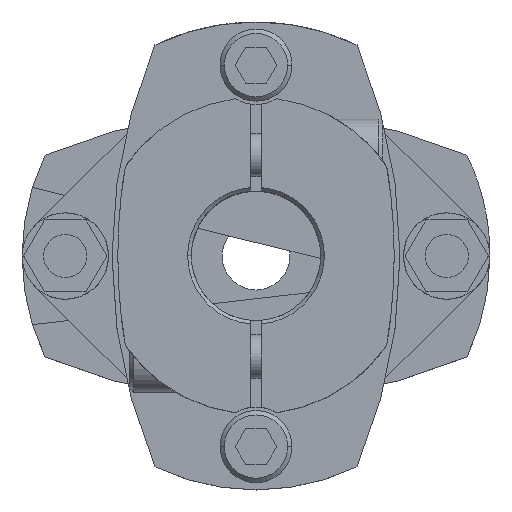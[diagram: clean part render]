
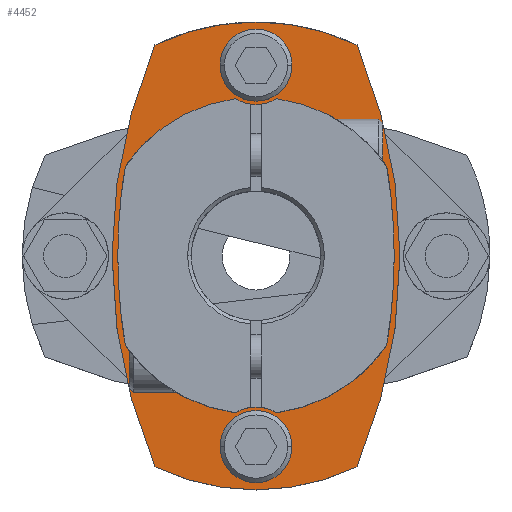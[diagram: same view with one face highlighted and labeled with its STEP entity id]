
A CAD part, top view. The second image highlights one B-rep face of the part: STEP entity #4452.
In plain terms, the highlighted planar face has unit normal (0, 0, 1).
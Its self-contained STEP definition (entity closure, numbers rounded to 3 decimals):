
#1172=CARTESIAN_POINT('',(-20.,0.,9.75));
#1173=VERTEX_POINT('',#1172);
#1189=CARTESIAN_POINT('',(-14.034,-29.314,9.75));
#1190=VERTEX_POINT('',#1189);
#1197=CARTESIAN_POINT('',(55.,0.,9.75));
#1198=DIRECTION('',(0.0,0.0,-1.0));
#1199=DIRECTION('',(-1.0,0.0,0.0));
#1200=AXIS2_PLACEMENT_3D('',#1197,#1198,#1199);
#1201=CIRCLE('',#1200,75.);
#1202=EDGE_CURVE('',#1190,#1173,#1201,.T.);
#1212=CARTESIAN_POINT('',(20.,0.,9.75));
#1213=VERTEX_POINT('',#1212);
#1222=CARTESIAN_POINT('',(14.034,-29.314,9.75));
#1223=VERTEX_POINT('',#1222);
#1224=CARTESIAN_POINT('',(-55.,0.,9.75));
#1225=DIRECTION('',(0.0,0.0,-1.0));
#1226=DIRECTION('',(-1.0,0.0,0.0));
#1227=AXIS2_PLACEMENT_3D('',#1224,#1225,#1226);
#1228=CIRCLE('',#1227,75.);
#1229=EDGE_CURVE('',#1213,#1223,#1228,.T.);
#1480=CARTESIAN_POINT('',(-5.,-26.5,9.75));
#1481=VERTEX_POINT('',#1480);
#1490=CARTESIAN_POINT('',(5.,-26.5,9.75));
#1491=VERTEX_POINT('',#1490);
#1492=CARTESIAN_POINT('',(0.,-26.5,9.75));
#1493=DIRECTION('',(0.0,0.0,-1.0));
#1494=DIRECTION('',(-1.0,0.0,0.0));
#1495=AXIS2_PLACEMENT_3D('',#1492,#1493,#1494);
#1496=CIRCLE('',#1495,5.0);
#1497=EDGE_CURVE('',#1491,#1481,#1496,.T.);
#1554=CARTESIAN_POINT('',(-5.,26.5,9.75));
#1555=VERTEX_POINT('',#1554);
#1564=CARTESIAN_POINT('',(5.,26.5,9.75));
#1565=VERTEX_POINT('',#1564);
#1566=CARTESIAN_POINT('',(0.,26.5,9.75));
#1567=DIRECTION('',(0.0,0.0,-1.0));
#1568=DIRECTION('',(-1.0,0.0,0.0));
#1569=AXIS2_PLACEMENT_3D('',#1566,#1567,#1568);
#1570=CIRCLE('',#1569,5.0);
#1571=EDGE_CURVE('',#1565,#1555,#1570,.T.);
#1628=CARTESIAN_POINT('',(-19.2,0.,9.75));
#1629=VERTEX_POINT('',#1628);
#1638=CARTESIAN_POINT('',(-18.151,-12.431,9.75));
#1639=VERTEX_POINT('',#1638);
#1640=CARTESIAN_POINT('',(55.,0.,9.75));
#1641=DIRECTION('',(0.0,0.0,-1.0));
#1642=DIRECTION('',(-1.0,0.0,0.0));
#1643=AXIS2_PLACEMENT_3D('',#1640,#1641,#1642);
#1644=CIRCLE('',#1643,74.2);
#1645=EDGE_CURVE('',#1639,#1629,#1644,.T.);
#1768=CARTESIAN_POINT('',(19.2,0.,9.75));
#1769=VERTEX_POINT('',#1768);
#1861=CARTESIAN_POINT('',(18.151,-12.431,9.75));
#1862=VERTEX_POINT('',#1861);
#1869=CARTESIAN_POINT('',(-55.,0.,9.75));
#1870=DIRECTION('',(0.0,0.0,-1.0));
#1871=DIRECTION('',(-1.0,0.0,0.0));
#1872=AXIS2_PLACEMENT_3D('',#1869,#1870,#1871);
#1873=CIRCLE('',#1872,74.2);
#1874=EDGE_CURVE('',#1769,#1862,#1873,.T.);
#3401=CARTESIAN_POINT('',(18.151,12.431,9.75));
#3402=VERTEX_POINT('',#3401);
#3403=CARTESIAN_POINT('',(-55.,0.,9.75));
#3404=DIRECTION('',(0.0,0.0,-1.0));
#3405=DIRECTION('',(-1.0,0.0,0.0));
#3406=AXIS2_PLACEMENT_3D('',#3403,#3404,#3405);
#3407=CIRCLE('',#3406,74.2);
#3408=EDGE_CURVE('',#3402,#1769,#3407,.T.);
#3513=CARTESIAN_POINT('',(-18.151,12.431,9.75));
#3514=VERTEX_POINT('',#3513);
#3521=CARTESIAN_POINT('',(55.,0.,9.75));
#3522=DIRECTION('',(0.0,0.0,-1.0));
#3523=DIRECTION('',(-1.0,0.0,0.0));
#3524=AXIS2_PLACEMENT_3D('',#3521,#3522,#3523);
#3525=CIRCLE('',#3524,74.2);
#3526=EDGE_CURVE('',#1629,#3514,#3525,.T.);
#3563=CARTESIAN_POINT('',(0.,26.5,9.75));
#3564=DIRECTION('',(0.0,0.0,-1.0));
#3565=DIRECTION('',(-1.0,0.0,0.0));
#3566=AXIS2_PLACEMENT_3D('',#3563,#3564,#3565);
#3567=CIRCLE('',#3566,5.0);
#3568=EDGE_CURVE('',#1555,#1565,#3567,.T.);
#3665=CARTESIAN_POINT('',(0.,-26.5,9.75));
#3666=DIRECTION('',(0.0,0.0,-1.0));
#3667=DIRECTION('',(-1.0,0.0,0.0));
#3668=AXIS2_PLACEMENT_3D('',#3665,#3666,#3667);
#3669=CIRCLE('',#3668,5.0);
#3670=EDGE_CURVE('',#1481,#1491,#3669,.T.);
#4133=CARTESIAN_POINT('',(2.875,-21.811,9.75));
#4134=VERTEX_POINT('',#4133);
#4150=CARTESIAN_POINT('',(-2.875,-21.811,9.75));
#4151=VERTEX_POINT('',#4150);
#4158=CARTESIAN_POINT('',(0.,-26.5,9.75));
#4159=DIRECTION('',(0.0,0.0,1.0));
#4160=DIRECTION('',(-1.0,0.0,0.0));
#4161=AXIS2_PLACEMENT_3D('',#4158,#4159,#4160);
#4162=CIRCLE('',#4161,5.5);
#4163=EDGE_CURVE('',#4134,#4151,#4162,.T.);
#4250=CARTESIAN_POINT('',(-2.875,21.811,9.75));
#4251=VERTEX_POINT('',#4250);
#4267=CARTESIAN_POINT('',(2.875,21.811,9.75));
#4268=VERTEX_POINT('',#4267);
#4275=CARTESIAN_POINT('',(0.,26.5,9.75));
#4276=DIRECTION('',(0.0,0.0,1.0));
#4277=DIRECTION('',(-1.0,0.0,0.0));
#4278=AXIS2_PLACEMENT_3D('',#4275,#4276,#4277);
#4279=CIRCLE('',#4278,5.5);
#4280=EDGE_CURVE('',#4251,#4268,#4279,.T.);
#4299=CARTESIAN_POINT('',(0.,0.,9.75));
#4300=DIRECTION('',(0.0,0.0,-1.0));
#4301=DIRECTION('',(-1.0,0.0,0.0));
#4302=AXIS2_PLACEMENT_3D('',#4299,#4300,#4301);
#4303=CIRCLE('',#4302,22.);
#4304=EDGE_CURVE('',#4151,#1639,#4303,.T.);
#4373=CARTESIAN_POINT('',(0.,0.,9.75));
#4374=DIRECTION('',(0.0,0.0,1.0));
#4375=DIRECTION('',(-1.0,0.0,0.0));
#4376=AXIS2_PLACEMENT_3D('',#4373,#4374,#4375);
#4377=PLANE('',#4376);
#4378=CARTESIAN_POINT('',(14.034,29.314,9.75));
#4379=VERTEX_POINT('',#4378);
#4380=CARTESIAN_POINT('',(-55.,0.,9.75));
#4381=DIRECTION('',(0.0,0.0,-1.0));
#4382=DIRECTION('',(-1.0,0.0,0.0));
#4383=AXIS2_PLACEMENT_3D('',#4380,#4381,#4382);
#4384=CIRCLE('',#4383,75.);
#4385=EDGE_CURVE('',#4379,#1213,#4384,.T.);
#4386=ORIENTED_EDGE('',*,*,#4385,.F.);
#4387=CARTESIAN_POINT('',(-14.034,29.314,9.75));
#4388=VERTEX_POINT('',#4387);
#4389=CARTESIAN_POINT('',(0.0,0.,9.75));
#4390=DIRECTION('',(0.0,0.0,-1.0));
#4391=DIRECTION('',(-1.0,0.0,0.0));
#4392=AXIS2_PLACEMENT_3D('',#4389,#4390,#4391);
#4393=CIRCLE('',#4392,32.5);
#4394=EDGE_CURVE('',#4388,#4379,#4393,.T.);
#4395=ORIENTED_EDGE('',*,*,#4394,.F.);
#4396=CARTESIAN_POINT('',(55.,0.,9.75));
#4397=DIRECTION('',(0.0,0.0,-1.0));
#4398=DIRECTION('',(-1.0,0.0,0.0));
#4399=AXIS2_PLACEMENT_3D('',#4396,#4397,#4398);
#4400=CIRCLE('',#4399,75.);
#4401=EDGE_CURVE('',#1173,#4388,#4400,.T.);
#4402=ORIENTED_EDGE('',*,*,#4401,.F.);
#4403=ORIENTED_EDGE('',*,*,#1202,.F.);
#4404=CARTESIAN_POINT('',(0.0,0.,9.75));
#4405=DIRECTION('',(0.0,0.0,-1.0));
#4406=DIRECTION('',(-1.0,0.0,0.0));
#4407=AXIS2_PLACEMENT_3D('',#4404,#4405,#4406);
#4408=CIRCLE('',#4407,32.5);
#4409=EDGE_CURVE('',#1223,#1190,#4408,.T.);
#4410=ORIENTED_EDGE('',*,*,#4409,.F.);
#4411=ORIENTED_EDGE('',*,*,#1229,.F.);
#4412=EDGE_LOOP('',(#4386,#4395,#4402,#4403,#4410,#4411));
#4413=FACE_OUTER_BOUND('',#4412,.T.);
#4414=ORIENTED_EDGE('',*,*,#3670,.T.);
#4415=ORIENTED_EDGE('',*,*,#1497,.T.);
#4416=EDGE_LOOP('',(#4414,#4415));
#4417=FACE_BOUND('',#4416,.T.);
#4418=ORIENTED_EDGE('',*,*,#3568,.T.);
#4419=ORIENTED_EDGE('',*,*,#1571,.T.);
#4420=EDGE_LOOP('',(#4418,#4419));
#4421=FACE_BOUND('',#4420,.T.);
#4422=ORIENTED_EDGE('',*,*,#4304,.T.);
#4423=ORIENTED_EDGE('',*,*,#1645,.T.);
#4424=ORIENTED_EDGE('',*,*,#3526,.T.);
#4425=CARTESIAN_POINT('',(0.,0.,9.75));
#4426=DIRECTION('',(0.0,0.0,-1.0));
#4427=DIRECTION('',(-1.0,0.0,0.0));
#4428=AXIS2_PLACEMENT_3D('',#4425,#4426,#4427);
#4429=CIRCLE('',#4428,22.);
#4430=EDGE_CURVE('',#3514,#4251,#4429,.T.);
#4431=ORIENTED_EDGE('',*,*,#4430,.T.);
#4432=ORIENTED_EDGE('',*,*,#4280,.T.);
#4433=CARTESIAN_POINT('',(0.,0.,9.75));
#4434=DIRECTION('',(0.0,0.0,-1.0));
#4435=DIRECTION('',(-1.0,0.0,0.0));
#4436=AXIS2_PLACEMENT_3D('',#4433,#4434,#4435);
#4437=CIRCLE('',#4436,22.);
#4438=EDGE_CURVE('',#4268,#3402,#4437,.T.);
#4439=ORIENTED_EDGE('',*,*,#4438,.T.);
#4440=ORIENTED_EDGE('',*,*,#3408,.T.);
#4441=ORIENTED_EDGE('',*,*,#1874,.T.);
#4442=CARTESIAN_POINT('',(0.,0.,9.75));
#4443=DIRECTION('',(0.0,0.0,-1.0));
#4444=DIRECTION('',(-1.0,0.0,0.0));
#4445=AXIS2_PLACEMENT_3D('',#4442,#4443,#4444);
#4446=CIRCLE('',#4445,22.);
#4447=EDGE_CURVE('',#1862,#4134,#4446,.T.);
#4448=ORIENTED_EDGE('',*,*,#4447,.T.);
#4449=ORIENTED_EDGE('',*,*,#4163,.T.);
#4450=EDGE_LOOP('',(#4422,#4423,#4424,#4431,#4432,#4439,#4440,#4441,#4448,#4449));
#4451=FACE_BOUND('',#4450,.T.);
#4452=ADVANCED_FACE('',(#4413,#4417,#4421,#4451),#4377,.T.);
